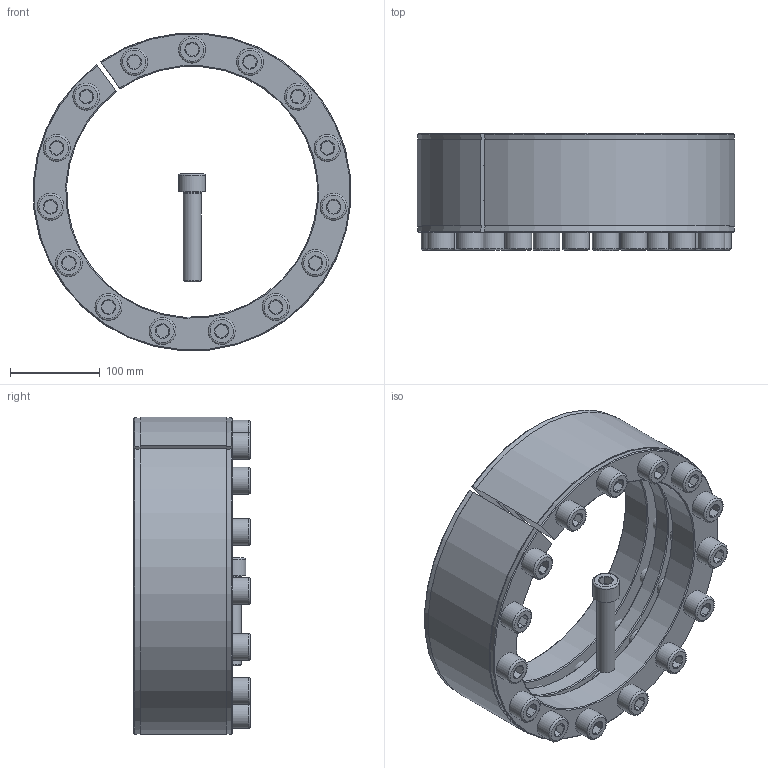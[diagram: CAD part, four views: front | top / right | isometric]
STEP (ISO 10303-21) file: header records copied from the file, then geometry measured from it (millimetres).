
FILE_DESCRIPTION( ( 'Unknown' ), '1' );
FILE_NAME( 'C:/Users/Frank/Eigene Daten/CAD/Solid Edge/KBK Karpstein/KBS Layout Baureihen/KBS 18/KBS - 280 x 355.stp', 'Unknown', ( 'Unknown' ), ( 'Unknown' ), 'XStep 1.0', 'Unknown', ' ' );
FILE_SCHEMA( ( 'automotive_design' ) );
Length unit declared in the file: millimetre
Products named in the file (3): Assem1; KBS 18 - 280 x 355; ISO EN DIN 4762 M20x100
Bounding box: 354.21 x 130 x 354.01 mm (x, y, z)
Volume: 6725503 mm3; surface area: 1099691.9 mm2
Topology: 18 solids, 18 shells, 572 faces, 1282 edges, 750 vertices
Faces by surface type: plane 242, cylinder 162, cone 136, torus 32
Full cylindrical faces by diameter (mm): 17.294 x30, 18 x16, 20 x32, 22 x60, 30 x16
Entity records: 4248 total; most frequent: CARTESIAN_POINT 984, DIRECTION 674, ORIENTED_EDGE 544, AXIS2_PLACEMENT_3D 319, EDGE_CURVE 272, EDGE_LOOP 227, VERTEX_POINT 191, CIRCLE 191
